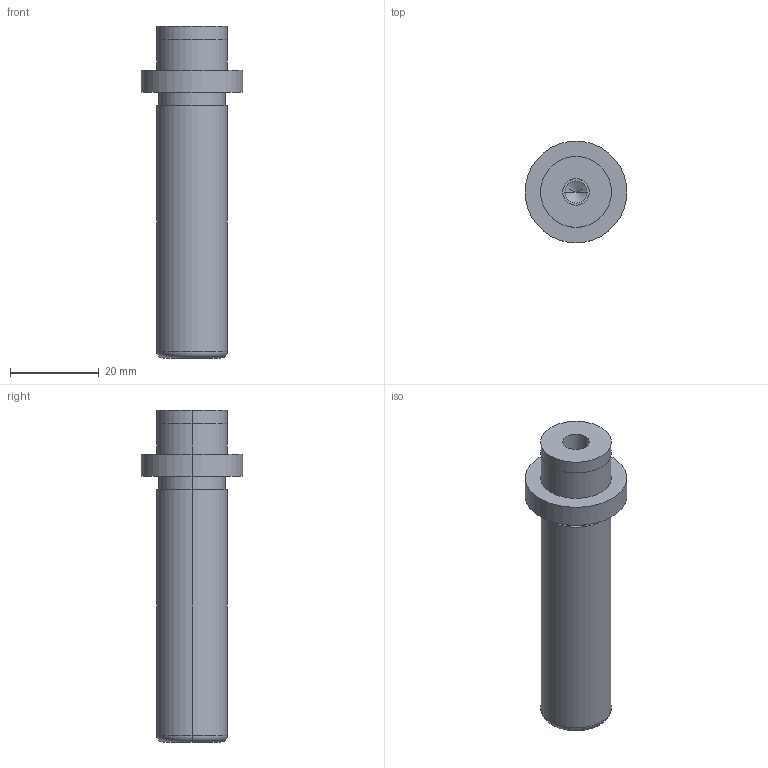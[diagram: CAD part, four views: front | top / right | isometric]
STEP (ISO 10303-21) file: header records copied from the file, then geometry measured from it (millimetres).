
FILE_DESCRIPTION(/* description */ (''),/* implementation_level */ '2;1');
FILE_NAME(/* name */ '3d_sgpw16-65_05287_r00.stp',/* time_stamp */ '2011-01-10T14:11:04+09:00',/* author */ ('MISUMI'),/* organization */ (''),/* preprocessor_version */ 'ST-DEVELOPER v11',/* originating_system */ 'UGS - NX 5.0',/* authorisation */ '');
FILE_SCHEMA (('CONFIG_CONTROL_DESIGN'));
Length unit declared in the file: millimetre
Products named in the file (1): 3d_sgpw16-65_05287_r00
Bounding box: 23 x 23 x 75 mm (x, y, z)
Volume: 15251.1 mm3; surface area: 5256.9 mm2
Topology: 1 solids, 1 shells, 31 faces, 64 edges, 38 vertices
Faces by surface type: cylinder 18, plane 7, cone 4, torus 2
Entity records: 890 total; most frequent: DIRECTION 162, CARTESIAN_POINT 130, ORIENTED_EDGE 120, AXIS2_PLACEMENT_3D 70, EDGE_CURVE 60, EDGE_LOOP 38, CIRCLE 38, VERTEX_POINT 38
